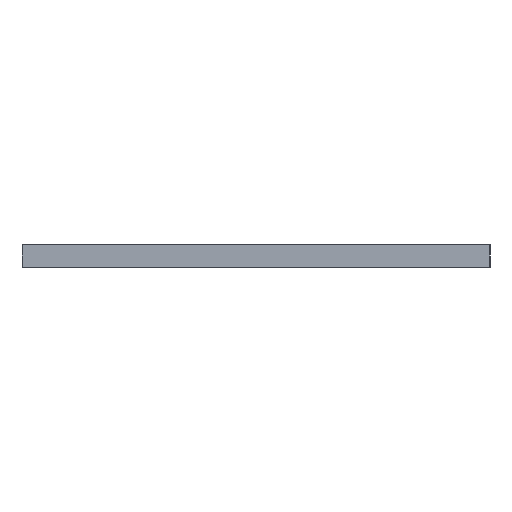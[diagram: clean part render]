
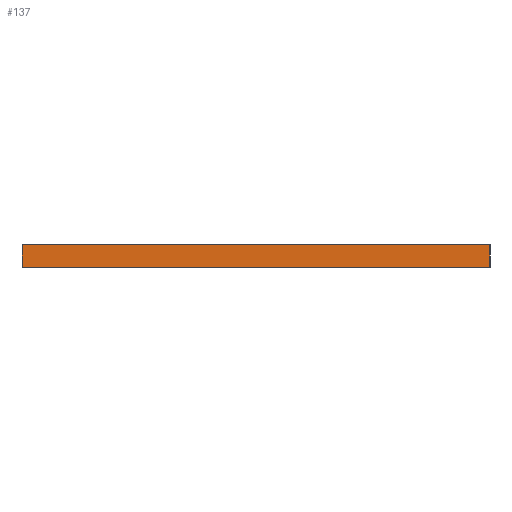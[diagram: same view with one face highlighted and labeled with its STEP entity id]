
A CAD part, left-side view. The second image highlights one B-rep face of the part: STEP entity #137.
In plain terms, the highlighted planar face has unit normal (-1, 0, 0).
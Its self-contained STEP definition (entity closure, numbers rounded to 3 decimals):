
#21 = EDGE_CURVE('',#22,#24,#26,.T.);
#22 = VERTEX_POINT('',#23);
#23 = CARTESIAN_POINT('',(0.,0.,0.));
#24 = VERTEX_POINT('',#25);
#25 = CARTESIAN_POINT('',(0.,0.,18.));
#26 = SURFACE_CURVE('',#27,(#31,#43),.PCURVE_S1.);
#27 = LINE('',#28,#29);
#28 = CARTESIAN_POINT('',(0.,0.,0.));
#29 = VECTOR('',#30,1.);
#30 = DIRECTION('',(0.,0.,1.));
#31 = PCURVE('',#32,#37);
#32 = PLANE('',#33);
#33 = AXIS2_PLACEMENT_3D('',#34,#35,#36);
#34 = CARTESIAN_POINT('',(0.,0.,0.));
#35 = DIRECTION('',(0.,1.,0.));
#36 = DIRECTION('',(1.,0.,0.));
#37 = DEFINITIONAL_REPRESENTATION('',(#38),#42);
#38 = LINE('',#39,#40);
#39 = CARTESIAN_POINT('',(0.,0.));
#40 = VECTOR('',#41,1.);
#41 = DIRECTION('',(0.,-1.));
#42 = ( GEOMETRIC_REPRESENTATION_CONTEXT(2) 
PARAMETRIC_REPRESENTATION_CONTEXT() REPRESENTATION_CONTEXT('2D SPACE',''
  ) );
#43 = PCURVE('',#44,#49);
#44 = PLANE('',#45);
#45 = AXIS2_PLACEMENT_3D('',#46,#47,#48);
#46 = CARTESIAN_POINT('',(0.,380.,0.));
#47 = DIRECTION('',(1.,0.,-0.));
#48 = DIRECTION('',(0.,-1.,0.));
#49 = DEFINITIONAL_REPRESENTATION('',(#50),#54);
#50 = LINE('',#51,#52);
#51 = CARTESIAN_POINT('',(380.,0.));
#52 = VECTOR('',#53,1.);
#53 = DIRECTION('',(0.,-1.));
#54 = ( GEOMETRIC_REPRESENTATION_CONTEXT(2) 
PARAMETRIC_REPRESENTATION_CONTEXT() REPRESENTATION_CONTEXT('2D SPACE',''
  ) );
#72 = PLANE('',#73);
#73 = AXIS2_PLACEMENT_3D('',#74,#75,#76);
#74 = CARTESIAN_POINT('',(600.,190.,18.));
#75 = DIRECTION('',(0.,0.,1.));
#76 = DIRECTION('',(1.,0.,-0.));
#126 = PLANE('',#127);
#127 = AXIS2_PLACEMENT_3D('',#128,#129,#130);
#128 = CARTESIAN_POINT('',(600.,190.,0.));
#129 = DIRECTION('',(0.,0.,1.));
#130 = DIRECTION('',(1.,0.,-0.));
#137 = ADVANCED_FACE('',(#138),#44,.F.);
#138 = FACE_BOUND('',#139,.F.);
#139 = EDGE_LOOP('',(#140,#170,#191,#192));
#140 = ORIENTED_EDGE('',*,*,#141,.T.);
#141 = EDGE_CURVE('',#142,#144,#146,.T.);
#142 = VERTEX_POINT('',#143);
#143 = CARTESIAN_POINT('',(0.,380.,0.));
#144 = VERTEX_POINT('',#145);
#145 = CARTESIAN_POINT('',(0.,380.,18.));
#146 = SURFACE_CURVE('',#147,(#151,#158),.PCURVE_S1.);
#147 = LINE('',#148,#149);
#148 = CARTESIAN_POINT('',(0.,380.,0.));
#149 = VECTOR('',#150,1.);
#150 = DIRECTION('',(0.,0.,1.));
#151 = PCURVE('',#44,#152);
#152 = DEFINITIONAL_REPRESENTATION('',(#153),#157);
#153 = LINE('',#154,#155);
#154 = CARTESIAN_POINT('',(0.,0.));
#155 = VECTOR('',#156,1.);
#156 = DIRECTION('',(0.,-1.));
#157 = ( GEOMETRIC_REPRESENTATION_CONTEXT(2) 
PARAMETRIC_REPRESENTATION_CONTEXT() REPRESENTATION_CONTEXT('2D SPACE',''
  ) );
#158 = PCURVE('',#159,#164);
#159 = PLANE('',#160);
#160 = AXIS2_PLACEMENT_3D('',#161,#162,#163);
#161 = CARTESIAN_POINT('',(1200.,380.,0.));
#162 = DIRECTION('',(0.,-1.,0.));
#163 = DIRECTION('',(-1.,0.,0.));
#164 = DEFINITIONAL_REPRESENTATION('',(#165),#169);
#165 = LINE('',#166,#167);
#166 = CARTESIAN_POINT('',(1200.,0.));
#167 = VECTOR('',#168,1.);
#168 = DIRECTION('',(0.,-1.));
#169 = ( GEOMETRIC_REPRESENTATION_CONTEXT(2) 
PARAMETRIC_REPRESENTATION_CONTEXT() REPRESENTATION_CONTEXT('2D SPACE',''
  ) );
#170 = ORIENTED_EDGE('',*,*,#171,.T.);
#171 = EDGE_CURVE('',#144,#24,#172,.T.);
#172 = SURFACE_CURVE('',#173,(#177,#184),.PCURVE_S1.);
#173 = LINE('',#174,#175);
#174 = CARTESIAN_POINT('',(0.,380.,18.));
#175 = VECTOR('',#176,1.);
#176 = DIRECTION('',(0.,-1.,0.));
#177 = PCURVE('',#44,#178);
#178 = DEFINITIONAL_REPRESENTATION('',(#179),#183);
#179 = LINE('',#180,#181);
#180 = CARTESIAN_POINT('',(0.,-18.));
#181 = VECTOR('',#182,1.);
#182 = DIRECTION('',(1.,0.));
#183 = ( GEOMETRIC_REPRESENTATION_CONTEXT(2) 
PARAMETRIC_REPRESENTATION_CONTEXT() REPRESENTATION_CONTEXT('2D SPACE',''
  ) );
#184 = PCURVE('',#72,#185);
#185 = DEFINITIONAL_REPRESENTATION('',(#186),#190);
#186 = LINE('',#187,#188);
#187 = CARTESIAN_POINT('',(-600.,190.));
#188 = VECTOR('',#189,1.);
#189 = DIRECTION('',(0.,-1.));
#190 = ( GEOMETRIC_REPRESENTATION_CONTEXT(2) 
PARAMETRIC_REPRESENTATION_CONTEXT() REPRESENTATION_CONTEXT('2D SPACE',''
  ) );
#191 = ORIENTED_EDGE('',*,*,#21,.F.);
#192 = ORIENTED_EDGE('',*,*,#193,.F.);
#193 = EDGE_CURVE('',#142,#22,#194,.T.);
#194 = SURFACE_CURVE('',#195,(#199,#206),.PCURVE_S1.);
#195 = LINE('',#196,#197);
#196 = CARTESIAN_POINT('',(0.,380.,0.));
#197 = VECTOR('',#198,1.);
#198 = DIRECTION('',(0.,-1.,0.));
#199 = PCURVE('',#44,#200);
#200 = DEFINITIONAL_REPRESENTATION('',(#201),#205);
#201 = LINE('',#202,#203);
#202 = CARTESIAN_POINT('',(0.,0.));
#203 = VECTOR('',#204,1.);
#204 = DIRECTION('',(1.,0.));
#205 = ( GEOMETRIC_REPRESENTATION_CONTEXT(2) 
PARAMETRIC_REPRESENTATION_CONTEXT() REPRESENTATION_CONTEXT('2D SPACE',''
  ) );
#206 = PCURVE('',#126,#207);
#207 = DEFINITIONAL_REPRESENTATION('',(#208),#212);
#208 = LINE('',#209,#210);
#209 = CARTESIAN_POINT('',(-600.,190.));
#210 = VECTOR('',#211,1.);
#211 = DIRECTION('',(0.,-1.));
#212 = ( GEOMETRIC_REPRESENTATION_CONTEXT(2) 
PARAMETRIC_REPRESENTATION_CONTEXT() REPRESENTATION_CONTEXT('2D SPACE',''
  ) );
